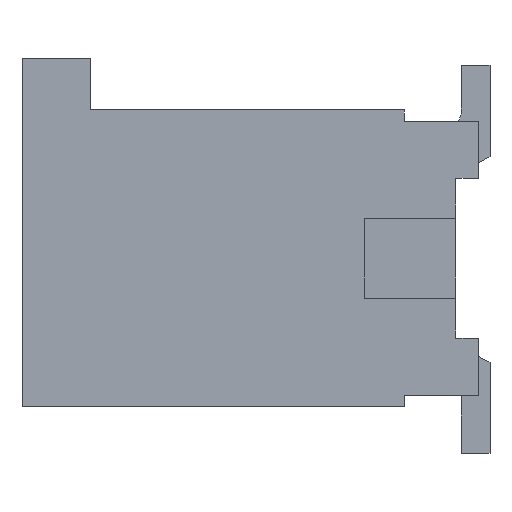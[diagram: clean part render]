
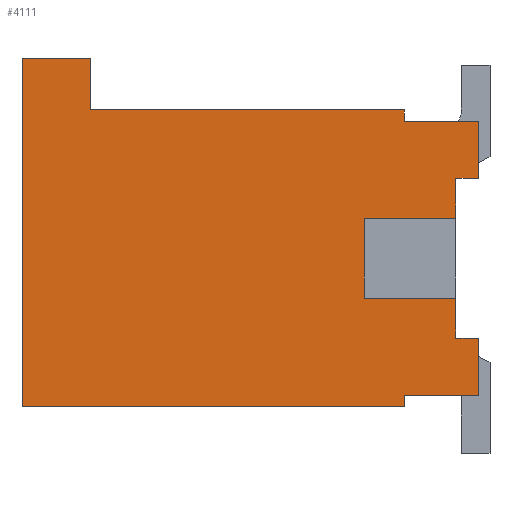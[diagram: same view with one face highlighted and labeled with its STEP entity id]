
A CAD part, left-side view. The second image highlights one B-rep face of the part: STEP entity #4111.
In plain terms, the highlighted planar face has unit normal (-1, 0, 0).
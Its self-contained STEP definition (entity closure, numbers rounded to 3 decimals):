
#13=DIRECTION('',(0.,-1.,0.));
#14=VECTOR('',#13,3.35);
#15=CARTESIAN_POINT('',(-2.3,2.7,-1.525));
#16=LINE('',#15,#14);
#421=DIRECTION('',(0.,-1.,0.));
#422=VECTOR('',#421,0.6);
#423=CARTESIAN_POINT('',(-2.3,2.7,1.525));
#424=LINE('',#423,#422);
#757=DIRECTION('',(0.,0.,1.));
#758=VECTOR('',#757,0.7);
#759=CARTESIAN_POINT('',(-2.3,-0.3,-0.575));
#760=LINE('',#759,#758);
#761=DIRECTION('',(0.,-1.,0.));
#762=VECTOR('',#761,0.8);
#763=CARTESIAN_POINT('',(-2.3,-0.3,-0.575));
#764=LINE('',#763,#762);
#765=DIRECTION('',(0.,0.,1.));
#766=VECTOR('',#765,0.35);
#767=CARTESIAN_POINT('',(-2.3,-1.1,-0.925));
#768=LINE('',#767,#766);
#769=DIRECTION('',(0.,1.,0.));
#770=VECTOR('',#769,0.2);
#771=CARTESIAN_POINT('',(-2.3,-1.3,-0.925));
#772=LINE('',#771,#770);
#773=DIRECTION('',(0.,1.,0.));
#774=VECTOR('',#773,0.65);
#775=CARTESIAN_POINT('',(-2.3,-1.3,-1.425));
#776=LINE('',#775,#774);
#777=DIRECTION('',(0.,0.,1.));
#778=VECTOR('',#777,0.1);
#779=CARTESIAN_POINT('',(-2.3,-0.65,-1.525));
#780=LINE('',#779,#778);
#781=DIRECTION('',(0.,0.,1.));
#782=VECTOR('',#781,3.05);
#783=CARTESIAN_POINT('',(-2.3,2.7,-1.525));
#784=LINE('',#783,#782);
#785=DIRECTION('',(0.,0.,-1.));
#786=VECTOR('',#785,0.45);
#787=CARTESIAN_POINT('',(-2.3,2.1,1.525));
#788=LINE('',#787,#786);
#789=DIRECTION('',(0.,1.,0.));
#790=VECTOR('',#789,2.75);
#791=CARTESIAN_POINT('',(-2.3,-0.65,1.075));
#792=LINE('',#791,#790);
#793=DIRECTION('',(0.,0.,1.));
#794=VECTOR('',#793,0.1);
#795=CARTESIAN_POINT('',(-2.3,-0.65,0.975));
#796=LINE('',#795,#794);
#797=DIRECTION('',(0.,1.,0.));
#798=VECTOR('',#797,0.65);
#799=CARTESIAN_POINT('',(-2.3,-1.3,0.975));
#800=LINE('',#799,#798);
#801=DIRECTION('',(0.,1.,0.));
#802=VECTOR('',#801,0.2);
#803=CARTESIAN_POINT('',(-2.3,-1.3,0.475));
#804=LINE('',#803,#802);
#805=DIRECTION('',(0.,0.,1.));
#806=VECTOR('',#805,0.35);
#807=CARTESIAN_POINT('',(-2.3,-1.1,0.125));
#808=LINE('',#807,#806);
#809=DIRECTION('',(0.,-1.,0.));
#810=VECTOR('',#809,0.8);
#811=CARTESIAN_POINT('',(-2.3,-0.3,0.125));
#812=LINE('',#811,#810);
#1009=DIRECTION('',(0.,0.,1.));
#1010=VECTOR('',#1009,0.5);
#1011=CARTESIAN_POINT('',(-2.3,-1.3,-1.425));
#1012=LINE('',#1011,#1010);
#1037=DIRECTION('',(0.,0.,1.));
#1038=VECTOR('',#1037,0.5);
#1039=CARTESIAN_POINT('',(-2.3,-1.3,0.475));
#1040=LINE('',#1039,#1038);
#2387=CARTESIAN_POINT('',(-2.3,-1.3,-1.425));
#2388=CARTESIAN_POINT('',(-2.3,-1.3,-0.925));
#2389=VERTEX_POINT('',#2387);
#2390=VERTEX_POINT('',#2388);
#2412=CARTESIAN_POINT('',(-2.3,2.7,1.525));
#2414=VERTEX_POINT('',#2412);
#2519=CARTESIAN_POINT('',(-2.3,2.7,-1.525));
#2520=VERTEX_POINT('',#2519);
#2521=CARTESIAN_POINT('',(-2.3,2.1,1.525));
#2522=CARTESIAN_POINT('',(-2.3,2.1,1.075));
#2523=VERTEX_POINT('',#2521);
#2524=VERTEX_POINT('',#2522);
#2579=CARTESIAN_POINT('',(-2.3,-0.65,-1.525));
#2581=VERTEX_POINT('',#2579);
#2583=CARTESIAN_POINT('',(-2.3,-1.3,0.975));
#2584=CARTESIAN_POINT('',(-2.3,-0.65,0.975));
#2585=VERTEX_POINT('',#2583);
#2586=VERTEX_POINT('',#2584);
#2587=CARTESIAN_POINT('',(-2.3,-0.65,1.075));
#2588=VERTEX_POINT('',#2587);
#2589=CARTESIAN_POINT('',(-2.3,-1.3,0.475));
#2590=CARTESIAN_POINT('',(-2.3,-1.1,0.475));
#2591=VERTEX_POINT('',#2589);
#2592=VERTEX_POINT('',#2590);
#2593=CARTESIAN_POINT('',(-2.3,-1.1,-0.925));
#2594=VERTEX_POINT('',#2593);
#2595=CARTESIAN_POINT('',(-2.3,-0.65,-1.425));
#2596=VERTEX_POINT('',#2595);
#2635=CARTESIAN_POINT('',(-2.3,-0.3,-0.575));
#2636=CARTESIAN_POINT('',(-2.3,-0.3,0.125));
#2637=VERTEX_POINT('',#2635);
#2638=VERTEX_POINT('',#2636);
#2639=CARTESIAN_POINT('',(-2.3,-1.1,-0.575));
#2640=VERTEX_POINT('',#2639);
#2641=CARTESIAN_POINT('',(-2.3,-1.1,0.125));
#2642=VERTEX_POINT('',#2641);
#4074=CARTESIAN_POINT('',(-2.3,2.7,-1.525));
#4075=DIRECTION('',(-1.,0.,0.));
#4076=DIRECTION('',(0.,-1.,0.));
#4077=AXIS2_PLACEMENT_3D('',#4074,#4075,#4076);
#4078=PLANE('',#4077);
#4080=ORIENTED_EDGE('',*,*,#4079,.F.);
#4082=ORIENTED_EDGE('',*,*,#4081,.T.);
#4084=ORIENTED_EDGE('',*,*,#4083,.F.);
#4086=ORIENTED_EDGE('',*,*,#4085,.F.);
#4088=ORIENTED_EDGE('',*,*,#4087,.F.);
#4090=ORIENTED_EDGE('',*,*,#4089,.T.);
#4092=ORIENTED_EDGE('',*,*,#4091,.F.);
#4093=ORIENTED_EDGE('',*,*,#3174,.F.);
#4094=ORIENTED_EDGE('',*,*,#3280,.T.);
#4095=ORIENTED_EDGE('',*,*,#3554,.T.);
#4096=ORIENTED_EDGE('',*,*,#3500,.T.);
#4097=ORIENTED_EDGE('',*,*,#3669,.F.);
#4098=ORIENTED_EDGE('',*,*,#4065,.F.);
#4100=ORIENTED_EDGE('',*,*,#4099,.F.);
#4102=ORIENTED_EDGE('',*,*,#4101,.F.);
#4104=ORIENTED_EDGE('',*,*,#4103,.T.);
#4106=ORIENTED_EDGE('',*,*,#4105,.F.);
#4108=ORIENTED_EDGE('',*,*,#4107,.F.);
#4109=EDGE_LOOP('',(#4080,#4082,#4084,#4086,#4088,#4090,#4092,#4093,#4094,#4095,
#4096,#4097,#4098,#4100,#4102,#4104,#4106,#4108));
#4110=FACE_OUTER_BOUND('',#4109,.F.);
#4111=ADVANCED_FACE('',(#4110),#4078,.T.);
#3174=EDGE_CURVE('',#2520,#2581,#16,.T.);
#3280=EDGE_CURVE('',#2520,#2414,#784,.T.);
#3500=EDGE_CURVE('',#2523,#2524,#788,.T.);
#3554=EDGE_CURVE('',#2414,#2523,#424,.T.);
#3669=EDGE_CURVE('',#2588,#2524,#792,.T.);
#4065=EDGE_CURVE('',#2586,#2588,#796,.T.);
#4079=EDGE_CURVE('',#2637,#2638,#760,.T.);
#4081=EDGE_CURVE('',#2637,#2640,#764,.T.);
#4083=EDGE_CURVE('',#2594,#2640,#768,.T.);
#4085=EDGE_CURVE('',#2390,#2594,#772,.T.);
#4087=EDGE_CURVE('',#2389,#2390,#1012,.T.);
#4089=EDGE_CURVE('',#2389,#2596,#776,.T.);
#4091=EDGE_CURVE('',#2581,#2596,#780,.T.);
#4099=EDGE_CURVE('',#2585,#2586,#800,.T.);
#4101=EDGE_CURVE('',#2591,#2585,#1040,.T.);
#4103=EDGE_CURVE('',#2591,#2592,#804,.T.);
#4105=EDGE_CURVE('',#2642,#2592,#808,.T.);
#4107=EDGE_CURVE('',#2638,#2642,#812,.T.);
